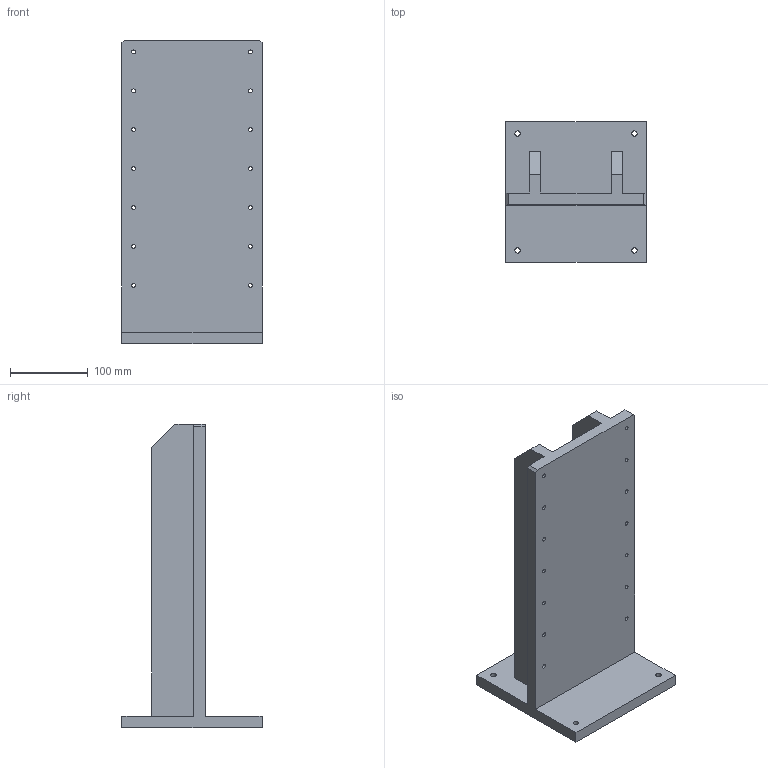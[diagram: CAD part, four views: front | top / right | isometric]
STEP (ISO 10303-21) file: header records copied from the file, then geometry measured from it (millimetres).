
FILE_DESCRIPTION( ( 'STEP AP203' ), '1' );
FILE_NAME( 'C:/3D-Trans/3D_AZTB180A-390+090901.stp', '2009-10-08T00:38:25', ( ' ' ), ( ' ' ), 'XStep 1.0', ' ', ' ' );
FILE_SCHEMA( ( 'CONFIG_CONTROL_DESIGN' ) );
Length unit declared in the file: millimetre
Products named in the file (1): 1
Bounding box: 180 x 180 x 390 mm (x, y, z)
Volume: 2085932.6 mm3; surface area: 304212.6 mm2
Topology: 1 solids, 1 shells, 40 faces, 128 edges, 90 vertices
Faces by surface type: plane 22, cylinder 18
Full cylindrical faces by diameter (mm): 5 x14, 7 x4
Entity records: 1340 total; most frequent: DIRECTION 214, CARTESIAN_POINT 213, ORIENTED_EDGE 192, EDGE_CURVE 96, EDGE_LOOP 94, AXIS2_PLACEMENT_3D 77, VERTEX_POINT 76, LINE 60
